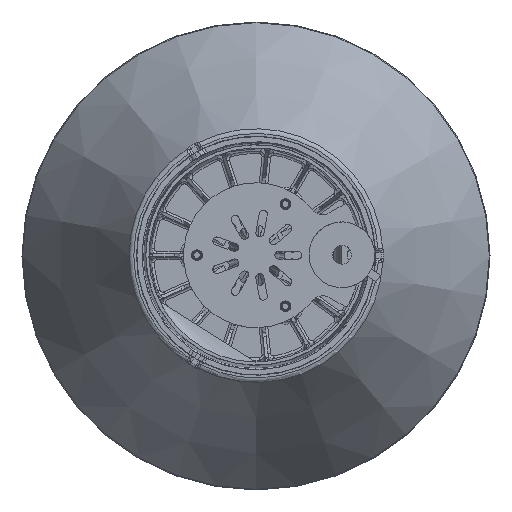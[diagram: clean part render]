
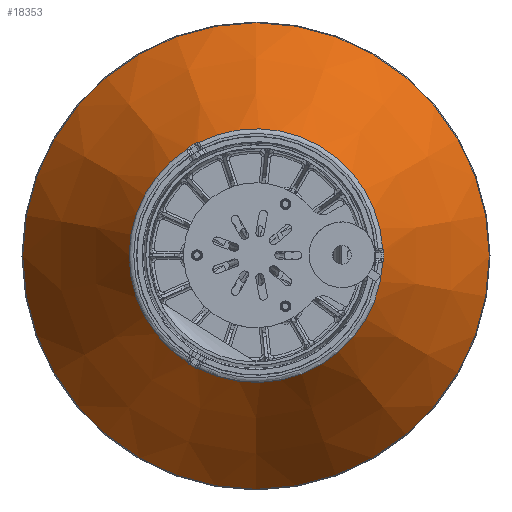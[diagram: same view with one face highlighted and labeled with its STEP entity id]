
A CAD part, top view. The second image highlights one B-rep face of the part: STEP entity #18353.
In plain terms, the highlighted conical face has half-angle 29.884 degrees and reference radius 67.1 mm.
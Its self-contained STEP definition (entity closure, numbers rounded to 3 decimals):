
#219=CONICAL_SURFACE('',#19919,67.1,0.522);
#1709=B_SPLINE_CURVE_WITH_KNOTS('',3,(#106999,#107000,#107001,#107002),
 .UNSPECIFIED.,.F.,.F.,(4,4),(-1.504,-1.355),
 .UNSPECIFIED.);
#1714=B_SPLINE_CURVE_WITH_KNOTS('',3,(#107078,#107079,#107080,#107081),
 .UNSPECIFIED.,.F.,.F.,(4,4),(-1.355,-1.206),
 .UNSPECIFIED.);
#1715=B_SPLINE_CURVE_WITH_KNOTS('',3,(#107094,#107095,#107096,#107097),
 .UNSPECIFIED.,.F.,.F.,(4,4),(-1.504,-1.355),
 .UNSPECIFIED.);
#1716=B_SPLINE_CURVE_WITH_KNOTS('',3,(#107101,#107102,#107103,#107104),
 .UNSPECIFIED.,.F.,.F.,(4,4),(-1.355,-1.206),
 .UNSPECIFIED.);
#1717=B_SPLINE_CURVE_WITH_KNOTS('',3,(#107108,#107109,#107110,#107111),
 .UNSPECIFIED.,.F.,.F.,(4,4),(-1.504,-1.355),
 .UNSPECIFIED.);
#1718=B_SPLINE_CURVE_WITH_KNOTS('',3,(#107115,#107116,#107117,#107118),
 .UNSPECIFIED.,.F.,.F.,(4,4),(-1.355,-1.206),
 .UNSPECIFIED.);
#2753=FACE_OUTER_BOUND('',#3843,.T.);
#3843=EDGE_LOOP('',(#16151,#16152,#16153,#16154,#16155,#16156,#16157,#16158,
#16159,#16160,#16161,#16162,#16163,#16164,#16165,#16166,#16167));
#4858=LINE('',#107090,#5841);
#5841=VECTOR('',#23622,67.1);
#6541=CIRCLE('',#19917,47.563);
#6543=CIRCLE('',#19920,86.927);
#6544=CIRCLE('',#19921,47.277);
#6545=CIRCLE('',#19922,47.563);
#6546=CIRCLE('',#19923,47.277);
#6547=CIRCLE('',#19924,47.563);
#6548=CIRCLE('',#19925,47.277);
#6549=CIRCLE('',#19926,47.277);
#6550=CIRCLE('',#19927,86.927);
#8243=VERTEX_POINT('',#106964);
#8245=VERTEX_POINT('',#106997);
#8246=VERTEX_POINT('',#107032);
#8250=VERTEX_POINT('',#107071);
#8252=VERTEX_POINT('',#107086);
#8253=VERTEX_POINT('',#107087);
#8254=VERTEX_POINT('',#107089);
#8255=VERTEX_POINT('',#107091);
#8256=VERTEX_POINT('',#107093);
#8257=VERTEX_POINT('',#107098);
#8258=VERTEX_POINT('',#107100);
#8259=VERTEX_POINT('',#107105);
#8260=VERTEX_POINT('',#107107);
#8261=VERTEX_POINT('',#107112);
#8262=VERTEX_POINT('',#107114);
#10923=EDGE_CURVE('',#8245,#8243,#1709,.T.);
#10933=EDGE_CURVE('',#8246,#8250,#1714,.T.);
#10934=EDGE_CURVE('',#8250,#8245,#6541,.T.);
#10936=EDGE_CURVE('',#8252,#8253,#6543,.T.);
#10937=EDGE_CURVE('',#8252,#8254,#4858,.T.);
#10938=EDGE_CURVE('',#8255,#8254,#6544,.T.);
#10939=EDGE_CURVE('',#8256,#8255,#1715,.T.);
#10940=EDGE_CURVE('',#8257,#8256,#6545,.T.);
#10941=EDGE_CURVE('',#8258,#8257,#1716,.T.);
#10942=EDGE_CURVE('',#8259,#8258,#6546,.T.);
#10943=EDGE_CURVE('',#8260,#8259,#1717,.T.);
#10944=EDGE_CURVE('',#8261,#8260,#6547,.T.);
#10945=EDGE_CURVE('',#8262,#8261,#1718,.T.);
#10946=EDGE_CURVE('',#8243,#8262,#6548,.T.);
#10947=EDGE_CURVE('',#8254,#8246,#6549,.T.);
#10948=EDGE_CURVE('',#8253,#8252,#6550,.T.);
#16151=ORIENTED_EDGE('',*,*,#10936,.F.);
#16152=ORIENTED_EDGE('',*,*,#10937,.T.);
#16153=ORIENTED_EDGE('',*,*,#10938,.F.);
#16154=ORIENTED_EDGE('',*,*,#10939,.F.);
#16155=ORIENTED_EDGE('',*,*,#10940,.F.);
#16156=ORIENTED_EDGE('',*,*,#10941,.F.);
#16157=ORIENTED_EDGE('',*,*,#10942,.F.);
#16158=ORIENTED_EDGE('',*,*,#10943,.F.);
#16159=ORIENTED_EDGE('',*,*,#10944,.F.);
#16160=ORIENTED_EDGE('',*,*,#10945,.F.);
#16161=ORIENTED_EDGE('',*,*,#10946,.F.);
#16162=ORIENTED_EDGE('',*,*,#10923,.F.);
#16163=ORIENTED_EDGE('',*,*,#10934,.F.);
#16164=ORIENTED_EDGE('',*,*,#10933,.F.);
#16165=ORIENTED_EDGE('',*,*,#10947,.F.);
#16166=ORIENTED_EDGE('',*,*,#10937,.F.);
#16167=ORIENTED_EDGE('',*,*,#10948,.F.);
#18353=ADVANCED_FACE('',(#2753),#219,.T.);
#19917=AXIS2_PLACEMENT_3D('',#107083,#23614,#23615);
#19919=AXIS2_PLACEMENT_3D('',#107085,#23618,#23619);
#19920=AXIS2_PLACEMENT_3D('',#107088,#23620,#23621);
#19921=AXIS2_PLACEMENT_3D('',#107092,#23623,#23624);
#19922=AXIS2_PLACEMENT_3D('',#107099,#23625,#23626);
#19923=AXIS2_PLACEMENT_3D('',#107106,#23627,#23628);
#19924=AXIS2_PLACEMENT_3D('',#107113,#23629,#23630);
#19925=AXIS2_PLACEMENT_3D('',#107119,#23631,#23632);
#19926=AXIS2_PLACEMENT_3D('',#107120,#23633,#23634);
#19927=AXIS2_PLACEMENT_3D('',#107121,#23635,#23636);
#23614=DIRECTION('center_axis',(-1.,0.,0.));
#23615=DIRECTION('ref_axis',(0.,-0.866,0.5));
#23618=DIRECTION('center_axis',(1.,0.,0.));
#23619=DIRECTION('ref_axis',(0.,1.,0.));
#23620=DIRECTION('center_axis',(1.,0.,0.));
#23621=DIRECTION('ref_axis',(0.,-1.,0.));
#23622=DIRECTION('',(-0.867,0.498,0.));
#23623=DIRECTION('center_axis',(-1.,0.,0.));
#23624=DIRECTION('ref_axis',(0.,-1.,0.));
#23625=DIRECTION('center_axis',(-1.,0.,0.));
#23626=DIRECTION('ref_axis',(0.,0.,
-1.));
#23627=DIRECTION('center_axis',(-1.,0.,0.));
#23628=DIRECTION('ref_axis',(0.,-1.,0.));
#23629=DIRECTION('center_axis',(-1.,0.,0.));
#23630=DIRECTION('ref_axis',(0.,0.866,0.5));
#23631=DIRECTION('center_axis',(-1.,0.,0.));
#23632=DIRECTION('ref_axis',(0.,-1.,0.));
#23633=DIRECTION('center_axis',(-1.,0.,0.));
#23634=DIRECTION('ref_axis',(0.,-1.,0.));
#23635=DIRECTION('center_axis',(1.,0.,0.));
#23636=DIRECTION('ref_axis',(0.,-1.,0.));
#106964=CARTESIAN_POINT('',(-99.195,-64.116,67.526));
#106997=CARTESIAN_POINT('',(-98.697,-65.078,66.527));
#106999=CARTESIAN_POINT('Ctrl Pts',(-98.697,-65.078,
66.527));
#107000=CARTESIAN_POINT('Ctrl Pts',(-98.697,-64.816,
66.96));
#107001=CARTESIAN_POINT('Ctrl Pts',(-98.892,-64.457,
67.318));
#107002=CARTESIAN_POINT('Ctrl Pts',(-99.195,-64.116,
67.526));
#107032=CARTESIAN_POINT('',(-99.195,-66.48,63.431));
#107071=CARTESIAN_POINT('',(-98.697,-66.097,64.763));
#107078=CARTESIAN_POINT('Ctrl Pts',(-99.195,-66.48,
63.431));
#107079=CARTESIAN_POINT('Ctrl Pts',(-98.892,-66.471,
63.83));
#107080=CARTESIAN_POINT('Ctrl Pts',(-98.697,-66.34,
64.32));
#107081=CARTESIAN_POINT('Ctrl Pts',(-98.697,-66.097,
64.763));
#107083=CARTESIAN_POINT('Origin',(-98.697,-24.406,41.869));
#107085=CARTESIAN_POINT('Origin',(-64.699,-24.406,41.869));
#107086=CARTESIAN_POINT('',(-30.195,-111.334,41.869));
#107087=CARTESIAN_POINT('',(-30.195,-24.406,128.797));
#107088=CARTESIAN_POINT('Origin',(-30.195,-24.406,41.869));
#107089=CARTESIAN_POINT('',(-99.195,-71.683,41.869));
#107090=CARTESIAN_POINT('',(-64.699,-91.506,41.869));
#107091=CARTESIAN_POINT('',(-99.195,-26.771,-5.348));
#107092=CARTESIAN_POINT('Origin',(-99.195,-24.406,41.869));
#107093=CARTESIAN_POINT('',(-98.697,-25.425,-5.683));
#107094=CARTESIAN_POINT('Ctrl Pts',(-98.697,-25.425,-5.683));
#107095=CARTESIAN_POINT('Ctrl Pts',(-98.697,-25.931,-5.672));
#107096=CARTESIAN_POINT('Ctrl Pts',(-98.892,-26.42,
-5.54));
#107097=CARTESIAN_POINT('Ctrl Pts',(-99.195,-26.771,
-5.348));
#107098=CARTESIAN_POINT('',(-98.697,-23.388,-5.683));
#107099=CARTESIAN_POINT('Origin',(-98.697,-24.406,41.869));
#107100=CARTESIAN_POINT('',(-99.195,-22.042,-5.348));
#107101=CARTESIAN_POINT('Ctrl Pts',(-99.195,-22.042,
-5.348));
#107102=CARTESIAN_POINT('Ctrl Pts',(-98.892,-22.393,
-5.54));
#107103=CARTESIAN_POINT('Ctrl Pts',(-98.697,-22.882,
-5.672));
#107104=CARTESIAN_POINT('Ctrl Pts',(-98.697,-23.388,
-5.683));
#107105=CARTESIAN_POINT('',(-99.195,17.667,63.431));
#107106=CARTESIAN_POINT('Origin',(-99.195,-24.406,41.869));
#107107=CARTESIAN_POINT('',(-98.697,17.284,64.763));
#107108=CARTESIAN_POINT('Ctrl Pts',(-98.697,17.284,
64.763));
#107109=CARTESIAN_POINT('Ctrl Pts',(-98.697,17.528,
64.32));
#107110=CARTESIAN_POINT('Ctrl Pts',(-98.892,17.658,
63.83));
#107111=CARTESIAN_POINT('Ctrl Pts',(-99.195,17.667,
63.431));
#107112=CARTESIAN_POINT('',(-98.697,16.266,66.527));
#107113=CARTESIAN_POINT('Origin',(-98.697,-24.406,41.869));
#107114=CARTESIAN_POINT('',(-99.195,15.303,67.526));
#107115=CARTESIAN_POINT('Ctrl Pts',(-99.195,15.303,
67.526));
#107116=CARTESIAN_POINT('Ctrl Pts',(-98.892,15.644,
67.318));
#107117=CARTESIAN_POINT('Ctrl Pts',(-98.697,16.003,
66.96));
#107118=CARTESIAN_POINT('Ctrl Pts',(-98.697,16.266,
66.527));
#107119=CARTESIAN_POINT('Origin',(-99.195,-24.406,41.869));
#107120=CARTESIAN_POINT('Origin',(-99.195,-24.406,41.869));
#107121=CARTESIAN_POINT('Origin',(-30.195,-24.406,41.869));
